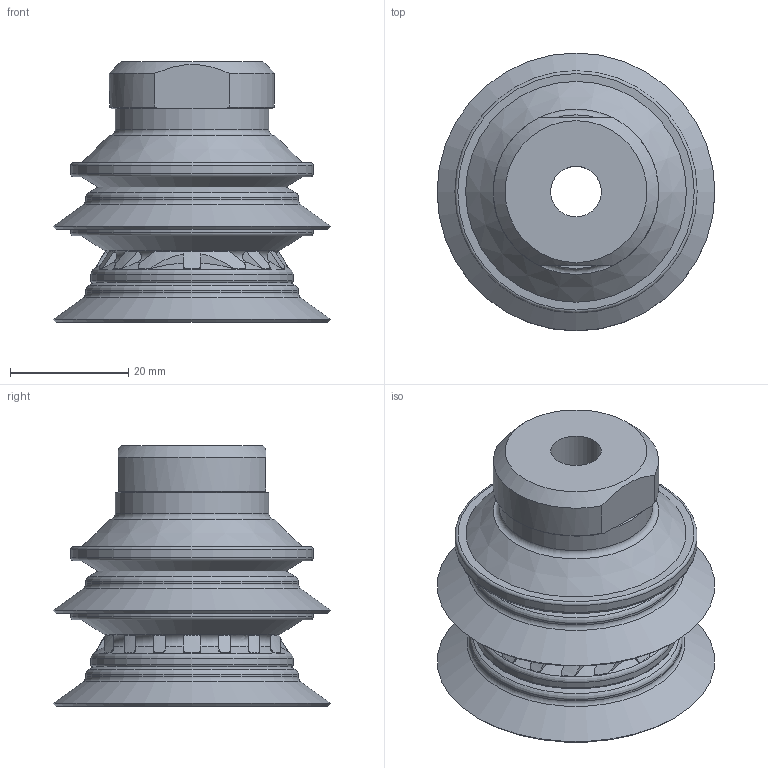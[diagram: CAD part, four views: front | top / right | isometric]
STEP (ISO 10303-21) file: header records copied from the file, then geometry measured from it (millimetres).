
FILE_DESCRIPTION( ( 'Unknown' ), '1' );
FILE_NAME( 'C:/Documents and Settings/Administrator/官帕 拳搁/Magic Cup (Dim)/B2.5/U TYPE/B2.5-40/B2.5-40-U45-N6-D-F2-18F.stp', 'Unknown', ( 'Unknown' ), ( 'Unknown' ), 'XStep 1.0', 'Unknown', ' ' );
FILE_SCHEMA( ( 'automotive_design' ) );
Length unit declared in the file: millimetre
Products named in the file (7): Assem1; Assem2; Assem3; B2.5-40; 40-18F(DIM); U45(DIM); 赤40 STOPPER 
Bounding box: 47 x 47 x 44.14 mm (x, y, z)
Volume: 60221.8 mm3; surface area: 52206.5 mm2
Topology: 12 solids, 12 shells, 1149 faces, 3147 edges, 2046 vertices
Faces by surface type: plane 378, cylinder 339, torus 231, cone 201
Full cylindrical faces by diameter (mm): 8.566 x3, 21 x6, 21.5 x6, 22 x3, 24 x3, 24.831 x3, 26 x3, 27.821 x3, 32 x3, 34.2 x3, 36 x3, 41 x6
Entity records: 15174 total; most frequent: CARTESIAN_POINT 4458, ORIENTED_EDGE 1954, DIRECTION 1610, EDGE_CURVE 977, AXIS2_PLACEMENT_3D 689, VERTEX_POINT 675, EDGE_LOOP 464, B_SPLINE_CURVE_WITH_KNOTS 446
